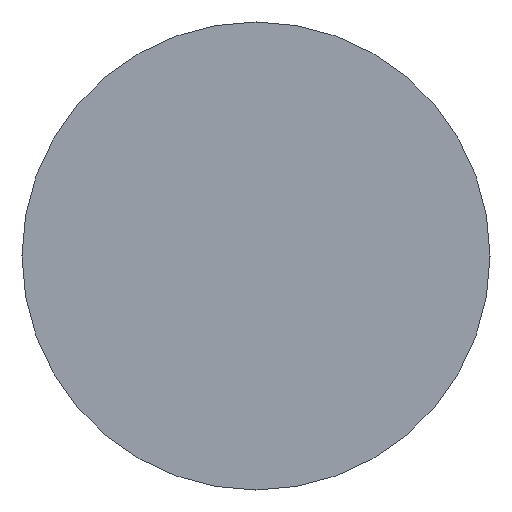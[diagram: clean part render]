
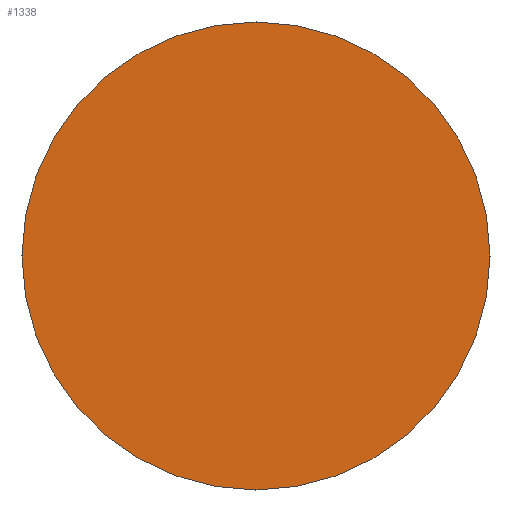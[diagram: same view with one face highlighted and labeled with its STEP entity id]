
A CAD part, front view. The second image highlights one B-rep face of the part: STEP entity #1338.
In plain terms, the highlighted planar face has unit normal (0, -1, 0).
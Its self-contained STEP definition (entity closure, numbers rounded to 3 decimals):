
#344 = CARTESIAN_POINT ( 'NONE',  ( 34., -25., 0. ) ) ;
#407 = DIRECTION ( 'NONE',  ( 1., 0., 0. ) ) ;
#460 = DIRECTION ( 'NONE',  ( 0., -1., 0. ) ) ;
#481 = DIRECTION ( 'NONE',  ( 0., -1., 0. ) ) ;
#567 = ORIENTED_EDGE ( 'NONE', *, *, #3177, .T. ) ;
#665 = DIRECTION ( 'NONE',  ( 1., 0., 0. ) ) ;
#737 = EDGE_LOOP ( 'NONE', ( #1579, #567 ) ) ;
#1241 = CARTESIAN_POINT ( 'NONE',  ( 0., -25., 0. ) ) ;
#1338 = ADVANCED_FACE ( 'NONE', ( #3950 ), #2399, .T. ) ;
#1427 = DIRECTION ( 'NONE',  ( 1., 0., 0. ) ) ;
#1476 = CIRCLE ( 'NONE', #2857, 34. ) ;
#1579 = ORIENTED_EDGE ( 'NONE', *, *, #3327, .T. ) ;
#1914 = DIRECTION ( 'NONE',  ( 0., -1., 0. ) ) ;
#2052 = CARTESIAN_POINT ( 'NONE',  ( 34., -25., 0. ) ) ;
#2307 = AXIS2_PLACEMENT_3D ( 'NONE', #2052, #481, #1427 ) ;
#2399 = PLANE ( 'NONE',  #2307 ) ;
#2536 = AXIS2_PLACEMENT_3D ( 'NONE', #1241, #1914, #665 ) ;
#2857 = AXIS2_PLACEMENT_3D ( 'NONE', #3233, #460, #407 ) ;
#2991 = VERTEX_POINT ( 'NONE', #344 ) ;
#3177 = EDGE_CURVE ( 'NONE', #3513, #2991, #1476, .T. ) ;
#3233 = CARTESIAN_POINT ( 'NONE',  ( 0., -25., 0. ) ) ;
#3327 = EDGE_CURVE ( 'NONE', #2991, #3513, #3645, .T. ) ;
#3406 = CARTESIAN_POINT ( 'NONE',  ( -34., -25., 0. ) ) ;
#3513 = VERTEX_POINT ( 'NONE', #3406 ) ;
#3645 = CIRCLE ( 'NONE', #2536, 34. ) ;
#3950 = FACE_OUTER_BOUND ( 'NONE', #737, .T. ) ;
